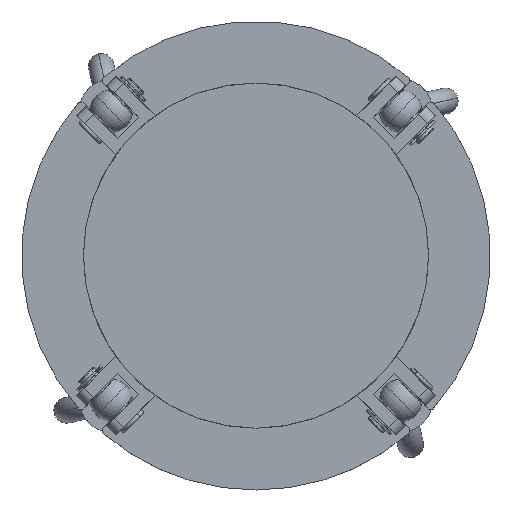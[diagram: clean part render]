
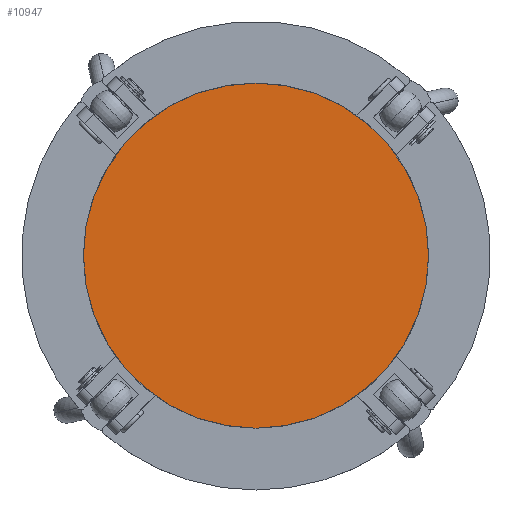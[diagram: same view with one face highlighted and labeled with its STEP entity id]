
A CAD part, front view. The second image highlights one B-rep face of the part: STEP entity #10947.
In plain terms, the highlighted planar face has unit normal (0, -1, 0).
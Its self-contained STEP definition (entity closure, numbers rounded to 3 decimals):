
#92 = VERTEX_POINT ( 'NONE', #17431 ) ;
#404 = DIRECTION ( 'NONE',  ( 1., 0., 0. ) ) ;
#1513 = ORIENTED_EDGE ( 'NONE', *, *, #16834, .T. ) ;
#4197 = CIRCLE ( 'NONE', #11558, 81. ) ;
#5405 = CARTESIAN_POINT ( 'NONE',  ( 0., 0., 0. ) ) ;
#8523 = EDGE_CURVE ( 'NONE', #92, #20459, #4197, .T. ) ;
#10947 = ADVANCED_FACE ( 'NONE', ( #27075 ), #26642, .F. ) ;
#11558 = AXIS2_PLACEMENT_3D ( 'NONE', #5405, #16355, #25152 ) ;
#12132 = AXIS2_PLACEMENT_3D ( 'NONE', #18135, #13963, #404 ) ;
#13963 = DIRECTION ( 'NONE',  ( 0., 1., 0. ) ) ;
#14487 = ORIENTED_EDGE ( 'NONE', *, *, #8523, .T. ) ;
#16355 = DIRECTION ( 'NONE',  ( 0., -1., 0. ) ) ;
#16426 = DIRECTION ( 'NONE',  ( 0., -1., 0. ) ) ;
#16834 = EDGE_CURVE ( 'NONE', #20459, #92, #18361, .T. ) ;
#17431 = CARTESIAN_POINT ( 'NONE',  ( 0., 0., 81. ) ) ;
#18135 = CARTESIAN_POINT ( 'NONE',  ( 0., 0., 0. ) ) ;
#18361 = CIRCLE ( 'NONE', #23451, 81. ) ;
#20459 = VERTEX_POINT ( 'NONE', #20524 ) ;
#20524 = CARTESIAN_POINT ( 'NONE',  ( 0., 0., -81. ) ) ;
#22198 = EDGE_LOOP ( 'NONE', ( #1513, #14487 ) ) ;
#23451 = AXIS2_PLACEMENT_3D ( 'NONE', #27522, #16426, #25373 ) ;
#25152 = DIRECTION ( 'NONE',  ( 0., 0., -1. ) ) ;
#25373 = DIRECTION ( 'NONE',  ( 0., 0., -1. ) ) ;
#26642 = PLANE ( 'NONE',  #12132 ) ;
#27075 = FACE_OUTER_BOUND ( 'NONE', #22198, .T. ) ;
#27522 = CARTESIAN_POINT ( 'NONE',  ( 0., 0., 0. ) ) ;
